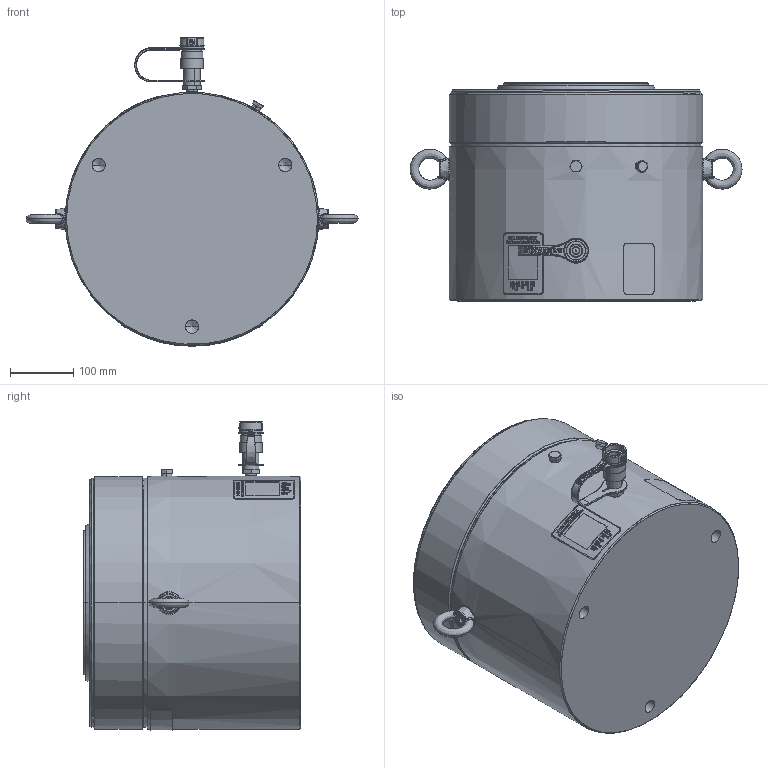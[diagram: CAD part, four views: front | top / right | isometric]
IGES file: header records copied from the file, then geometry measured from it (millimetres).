
Start section:  PTC IGES file: hcg5002.igs
Global section: file name: hcg5002.igs; native system: Creo Parametric by PTC Inc.; preprocessor: 2015290; author: Akhilesh.Subrahmanya; organization: Unknown; date: 20170720.094037; units: millimetre
Bounding box: 523.98 x 344 x 486.94 mm (x, y, z)
Surface area: 1166793.5 mm2 (no closed solid volume)
Topology: 0 solids, 0 shells, 607 faces, 5700 edges, 5686 vertices
Faces by surface type: revolution 399, bspline 205, extrusion 3
